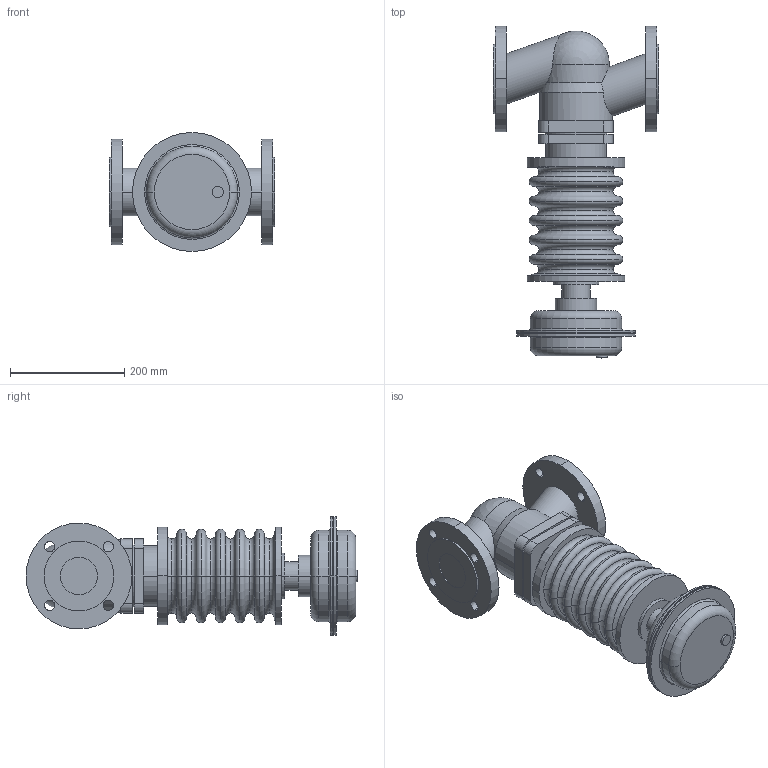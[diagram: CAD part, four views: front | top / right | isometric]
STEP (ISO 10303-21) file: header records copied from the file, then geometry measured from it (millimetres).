
FILE_DESCRIPTION(('OneSpaceDesigner STEP Export'),'2;1');
FILE_NAME('c000000554.stp','2006-08-30T 8:46:46',(''),(''),'OneSpace Designer STEP processor for AP203 (Solid Model)','OneSpace Designer 13.20A 18-Aug-2005 (C) CoCreate Software GmbH','');
FILE_SCHEMA(('CONFIG_CONTROL_DESIGN'));
Length unit declared in the file: millimetre
Products named in the file (1): 2
Bounding box: 290 x 580.5 x 208 mm (x, y, z)
Volume: 9909593.2 mm3; surface area: 574219.2 mm2
Topology: 1 solids, 1 shells, 176 faces, 409 edges, 258 vertices
Faces by surface type: cylinder 70, torus 54, plane 48, cone 2, sphere 2
Entity records: 4601 total; most frequent: CARTESIAN_POINT 953, ORIENTED_EDGE 814, DIRECTION 666, EDGE_CURVE 407, AXIS2_PLACEMENT_3D 269, VERTEX_POINT 258, EDGE_LOOP 217, FACE_OUTER_BOUND 176
